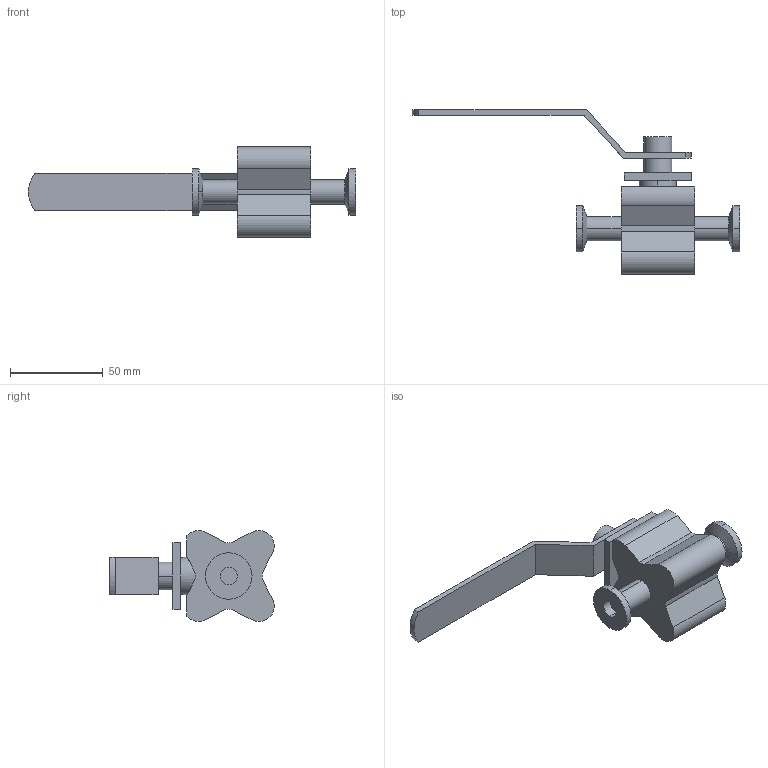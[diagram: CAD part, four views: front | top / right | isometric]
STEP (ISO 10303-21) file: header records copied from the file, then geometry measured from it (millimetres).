
FILE_DESCRIPTION(('Creo Elements/Direct Modeling STEP Export'),'2;1');
FILE_NAME('BLV1-0.5T-H-12CL.stp','2019-05-10T 7:38:53',(''),(''),'Creo Elements/Direct Modeling STEP processor for AP214 (Solid Model)','Creo Elements/Direct Modeling 19.0F 14-Feb-2017 (C) Parametric Technology GmbH','');
FILE_SCHEMA(('AUTOMOTIVE_DESIGN { 1 0 10303 214 1 1 1 1 }'));
Length unit declared in the file: millimetre
Products named in the file (1): BLV1-0.5T-H-12CL
Bounding box: 176 x 88.46 x 48.92 mm (x, y, z)
Volume: 103457.3 mm3; surface area: 25866.9 mm2
Topology: 1 solids, 1 shells, 64 faces, 162 edges, 108 vertices
Faces by surface type: plane 31, cylinder 29, cone 4
Entity records: 1846 total; most frequent: CARTESIAN_POINT 329, ORIENTED_EDGE 324, DIRECTION 298, EDGE_CURVE 162, VERTEX_POINT 108, AXIS2_PLACEMENT_3D 103, VECTOR 92, LINE 92
